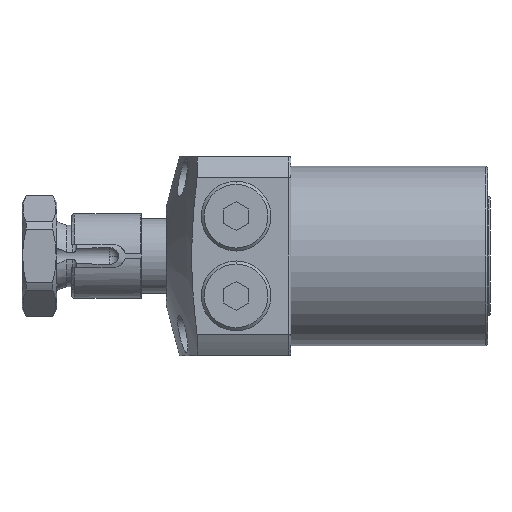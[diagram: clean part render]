
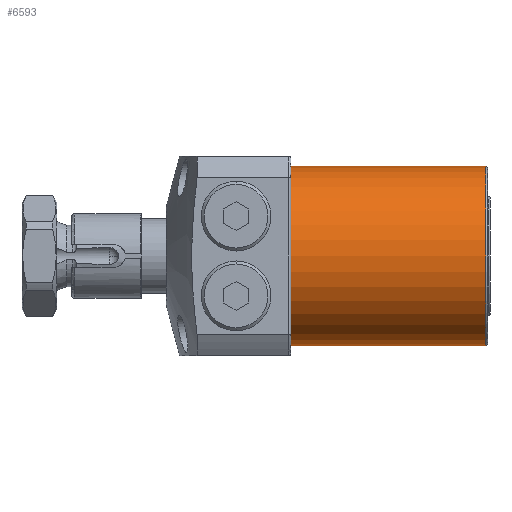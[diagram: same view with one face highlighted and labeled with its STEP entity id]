
A CAD part, left-side view. The second image highlights one B-rep face of the part: STEP entity #6593.
In plain terms, the highlighted cylindrical face has radius 18 mm (diameter 36 mm), a partial arc.
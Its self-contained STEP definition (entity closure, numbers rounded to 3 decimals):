
#2031 = AXIS2_PLACEMENT_3D ( 'NONE', #5648, #5644, #5650 ) ;
#2083 = VECTOR ( 'NONE', #7251, 1000. ) ;
#2799 = CARTESIAN_POINT ( 'NONE',  ( 39.1, 0., 18. ) ) ;
#2892 = CARTESIAN_POINT ( 'NONE',  ( 39.1, 0., -18. ) ) ;
#2909 = CARTESIAN_POINT ( 'NONE',  ( 0., 0., -18. ) ) ;
#2913 = CARTESIAN_POINT ( 'NONE',  ( 0., 0., 18. ) ) ;
#3938 = VERTEX_POINT ( 'NONE', #2799 ) ;
#4031 = VERTEX_POINT ( 'NONE', #2892 ) ;
#4048 = VERTEX_POINT ( 'NONE', #2909 ) ;
#4052 = VERTEX_POINT ( 'NONE', #2913 ) ;
#5644 = DIRECTION ( 'NONE',  ( -1., 0., 0. ) ) ;
#5647 = FACE_OUTER_BOUND ( 'NONE', #6413, .T. ) ;
#5648 = CARTESIAN_POINT ( 'NONE',  ( 39.5, 0., 0. ) ) ;
#5649 = CYLINDRICAL_SURFACE ( 'NONE', #2031, 18. ) ;
#5650 = DIRECTION ( 'NONE',  ( 0., 0., 1. ) ) ;
#5887 = VECTOR ( 'NONE', #7255, 1000. ) ;
#5895 = CIRCLE ( 'NONE', #5898, 18. ) ;
#5897 = CIRCLE ( 'NONE', #5900, 18. ) ;
#5898 = AXIS2_PLACEMENT_3D ( 'NONE', #7268, #7269, #7270 ) ;
#5900 = AXIS2_PLACEMENT_3D ( 'NONE', #7271, #7272, #7273 ) ;
#6413 = EDGE_LOOP ( 'NONE', ( #7131, #7132, #7133, #7134 ) ) ;
#6593 = ADVANCED_FACE ( 'NONE', ( #5647 ), #5649, .T. ) ;
#6646 = EDGE_CURVE ( 'NONE', #4031, #4048, #7249, .T. ) ;
#6648 = EDGE_CURVE ( 'NONE', #3938, #4052, #7246, .T. ) ;
#6653 = EDGE_CURVE ( 'NONE', #4031, #3938, #5895, .T. ) ;
#6654 = EDGE_CURVE ( 'NONE', #4052, #4048, #5897, .T. ) ;
#7131 = ORIENTED_EDGE ( 'NONE', *, *, #6646, .F. ) ;
#7132 = ORIENTED_EDGE ( 'NONE', *, *, #6653, .T. ) ;
#7133 = ORIENTED_EDGE ( 'NONE', *, *, #6648, .T. ) ;
#7134 = ORIENTED_EDGE ( 'NONE', *, *, #6654, .T. ) ;
#7246 = LINE ( 'NONE', #7248, #5887 ) ;
#7248 = CARTESIAN_POINT ( 'NONE',  ( 39.5, 0., 18. ) ) ;
#7249 = LINE ( 'NONE', #7250, #2083 ) ;
#7250 = CARTESIAN_POINT ( 'NONE',  ( 39.5, 0., -18. ) ) ;
#7251 = DIRECTION ( 'NONE',  ( -1., 0., 0. ) ) ;
#7255 = DIRECTION ( 'NONE',  ( -1., 0., 0. ) ) ;
#7268 = CARTESIAN_POINT ( 'NONE',  ( 39.1, 0., 0. ) ) ;
#7269 = DIRECTION ( 'NONE',  ( -1., 0., 0. ) ) ;
#7270 = DIRECTION ( 'NONE',  ( 0., 0., -1. ) ) ;
#7271 = CARTESIAN_POINT ( 'NONE',  ( 0., 0., 0. ) ) ;
#7272 = DIRECTION ( 'NONE',  ( 1., 0., 0. ) ) ;
#7273 = DIRECTION ( 'NONE',  ( 0., 0., -1. ) ) ;
